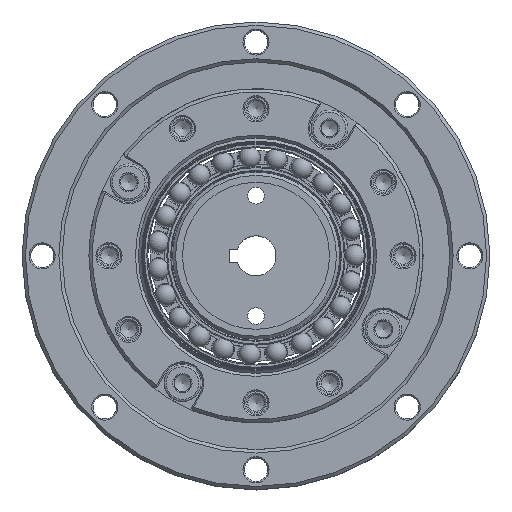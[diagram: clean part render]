
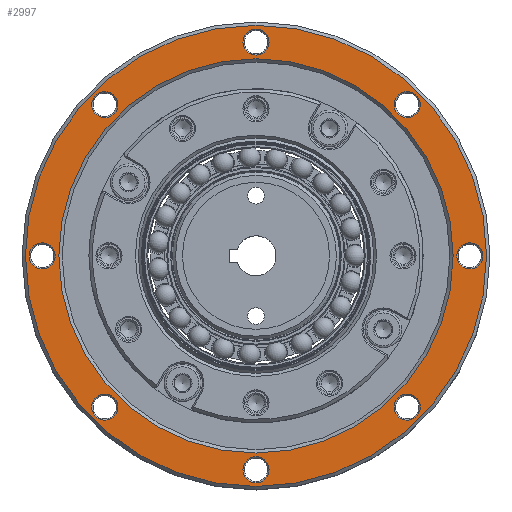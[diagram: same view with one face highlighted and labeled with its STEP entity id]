
A CAD part, top view. The second image highlights one B-rep face of the part: STEP entity #2997.
In plain terms, the highlighted planar face has unit normal (0, 0, 1).
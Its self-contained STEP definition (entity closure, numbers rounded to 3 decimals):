
#2783=PLANE('',#9725);
#2997=ADVANCED_FACE('',(#3760,#3761,#3762,#3763,#3764,#3765,#3766,#3767,
#3768,#3769),#2783,.F.);
#3760=FACE_BOUND('',#4473,.T.);
#3761=FACE_BOUND('',#4474,.T.);
#3762=FACE_BOUND('',#4475,.T.);
#3763=FACE_BOUND('',#4476,.T.);
#3764=FACE_BOUND('',#4477,.T.);
#3765=FACE_BOUND('',#4478,.T.);
#3766=FACE_BOUND('',#4479,.T.);
#3767=FACE_BOUND('',#4480,.T.);
#3768=FACE_BOUND('',#4481,.T.);
#3769=FACE_BOUND('',#4482,.T.);
#4473=EDGE_LOOP('',(#5378));
#4474=EDGE_LOOP('',(#5379));
#4475=EDGE_LOOP('',(#5380));
#4476=EDGE_LOOP('',(#5381));
#4477=EDGE_LOOP('',(#5382));
#4478=EDGE_LOOP('',(#5383));
#4479=EDGE_LOOP('',(#5384));
#4480=EDGE_LOOP('',(#5385));
#4481=EDGE_LOOP('',(#5386));
#4482=EDGE_LOOP('',(#5387));
#5378=ORIENTED_EDGE('',*,*,#8015,.T.);
#5379=ORIENTED_EDGE('',*,*,#8016,.T.);
#5380=ORIENTED_EDGE('',*,*,#8017,.T.);
#5381=ORIENTED_EDGE('',*,*,#8018,.T.);
#5382=ORIENTED_EDGE('',*,*,#8019,.T.);
#5383=ORIENTED_EDGE('',*,*,#8020,.T.);
#5384=ORIENTED_EDGE('',*,*,#8021,.T.);
#5385=ORIENTED_EDGE('',*,*,#8022,.T.);
#5386=ORIENTED_EDGE('',*,*,#8023,.F.);
#5387=ORIENTED_EDGE('',*,*,#8014,.T.);
#7229=VERTEX_POINT('',#13706);
#7230=VERTEX_POINT('',#13709);
#7231=VERTEX_POINT('',#13711);
#7232=VERTEX_POINT('',#13713);
#7233=VERTEX_POINT('',#13715);
#7234=VERTEX_POINT('',#13717);
#7235=VERTEX_POINT('',#13719);
#7236=VERTEX_POINT('',#13721);
#7237=VERTEX_POINT('',#13723);
#7238=VERTEX_POINT('',#13725);
#8014=EDGE_CURVE('',#7229,#7229,#8991,.T.);
#8015=EDGE_CURVE('',#7230,#7230,#8992,.T.);
#8016=EDGE_CURVE('',#7231,#7231,#8993,.T.);
#8017=EDGE_CURVE('',#7232,#7232,#8994,.T.);
#8018=EDGE_CURVE('',#7233,#7233,#8995,.T.);
#8019=EDGE_CURVE('',#7234,#7234,#8996,.T.);
#8020=EDGE_CURVE('',#7235,#7235,#8997,.T.);
#8021=EDGE_CURVE('',#7236,#7236,#8998,.T.);
#8022=EDGE_CURVE('',#7237,#7237,#8999,.T.);
#8023=EDGE_CURVE('',#7238,#7238,#9000,.T.);
#8991=CIRCLE('',#9714,29.5);
#8992=CIRCLE('',#9716,1.95);
#8993=CIRCLE('',#9717,1.95);
#8994=CIRCLE('',#9718,1.95);
#8995=CIRCLE('',#9719,1.95);
#8996=CIRCLE('',#9720,1.95);
#8997=CIRCLE('',#9721,1.95);
#8998=CIRCLE('',#9722,1.95);
#8999=CIRCLE('',#9723,1.95);
#9000=CIRCLE('',#9724,34.5);
#9714=AXIS2_PLACEMENT_3D('',#13705,#11141,#11142);
#9716=AXIS2_PLACEMENT_3D('',#13708,#11145,#11146);
#9717=AXIS2_PLACEMENT_3D('',#13710,#11147,#11148);
#9718=AXIS2_PLACEMENT_3D('',#13712,#11149,#11150);
#9719=AXIS2_PLACEMENT_3D('',#13714,#11151,#11152);
#9720=AXIS2_PLACEMENT_3D('',#13716,#11153,#11154);
#9721=AXIS2_PLACEMENT_3D('',#13718,#11155,#11156);
#9722=AXIS2_PLACEMENT_3D('',#13720,#11157,#11158);
#9723=AXIS2_PLACEMENT_3D('',#13722,#11159,#11160);
#9724=AXIS2_PLACEMENT_3D('',#13724,#11161,#11162);
#9725=AXIS2_PLACEMENT_3D('',#13726,#11163,#11164);
#11141=DIRECTION('',(0.,0.,-1.));
#11142=DIRECTION('',(-1.,0.,0.));
#11145=DIRECTION('',(0.,0.,-1.));
#11146=DIRECTION('',(-1.,0.,0.));
#11147=DIRECTION('',(0.,0.,-1.));
#11148=DIRECTION('',(-1.,0.,0.));
#11149=DIRECTION('',(0.,0.,-1.));
#11150=DIRECTION('',(-1.,0.,0.));
#11151=DIRECTION('',(0.,0.,-1.));
#11152=DIRECTION('',(-1.,0.,0.));
#11153=DIRECTION('',(0.,0.,-1.));
#11154=DIRECTION('',(-1.,0.,0.));
#11155=DIRECTION('',(0.,0.,-1.));
#11156=DIRECTION('',(-1.,0.,0.));
#11157=DIRECTION('',(0.,0.,-1.));
#11158=DIRECTION('',(-1.,0.,0.));
#11159=DIRECTION('',(0.,0.,-1.));
#11160=DIRECTION('',(-1.,0.,0.));
#11161=DIRECTION('',(0.,0.,-1.));
#11162=DIRECTION('',(-1.,0.,0.));
#11163=DIRECTION('',(0.,0.,-1.));
#11164=DIRECTION('',(-1.,0.,0.));
#13705=CARTESIAN_POINT('',(0.,0.,14.1));
#13706=CARTESIAN_POINT('',(-29.5,0.,14.1));
#13708=CARTESIAN_POINT('',(22.627,-22.627,14.1));
#13709=CARTESIAN_POINT('',(20.677,-22.627,14.1));
#13710=CARTESIAN_POINT('',(32.,0.,14.1));
#13711=CARTESIAN_POINT('',(30.05,0.,14.1));
#13712=CARTESIAN_POINT('',(22.627,22.627,14.1));
#13713=CARTESIAN_POINT('',(20.677,22.627,14.1));
#13714=CARTESIAN_POINT('',(0.,32.,14.1));
#13715=CARTESIAN_POINT('',(-1.95,32.,14.1));
#13716=CARTESIAN_POINT('',(-22.627,22.627,14.1));
#13717=CARTESIAN_POINT('',(-24.577,22.627,14.1));
#13718=CARTESIAN_POINT('',(-32.,0.,14.1));
#13719=CARTESIAN_POINT('',(-33.95,0.,14.1));
#13720=CARTESIAN_POINT('',(-22.627,-22.627,14.1));
#13721=CARTESIAN_POINT('',(-24.577,-22.627,14.1));
#13722=CARTESIAN_POINT('',(0.,-32.,14.1));
#13723=CARTESIAN_POINT('',(-1.95,-32.,14.1));
#13724=CARTESIAN_POINT('',(0.,0.,14.1));
#13725=CARTESIAN_POINT('',(-34.5,0.,14.1));
#13726=CARTESIAN_POINT('',(29.5,0.,14.1));
